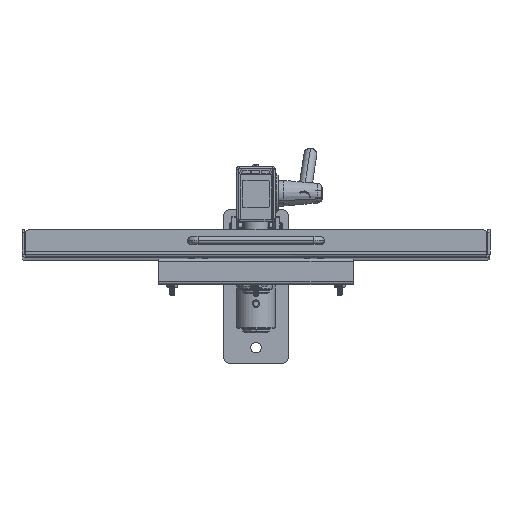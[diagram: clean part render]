
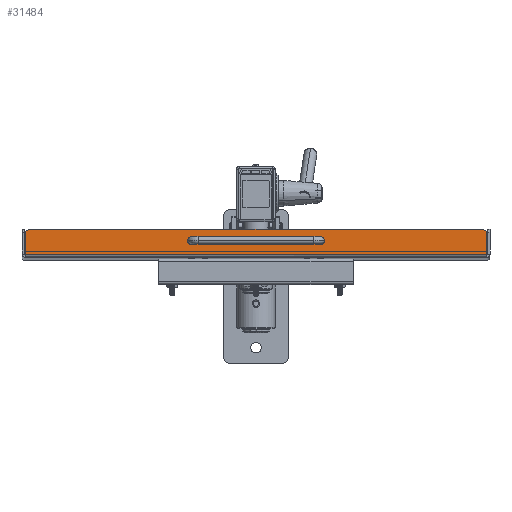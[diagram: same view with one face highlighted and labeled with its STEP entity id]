
A CAD part, top view. The second image highlights one B-rep face of the part: STEP entity #31484.
In plain terms, the highlighted planar face has unit normal (0, 0.008, 1) as drawn and (0, 0, 1) by its records, which use the part's own axes.
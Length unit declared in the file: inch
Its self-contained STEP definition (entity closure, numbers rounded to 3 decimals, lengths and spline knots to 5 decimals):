
#1084 = CARTESIAN_POINT ( 'NONE',  ( -8.75, 0.75, 6.09 ) ) ;
#4526 = ORIENTED_EDGE ( 'NONE', *, *, #39152, .T. ) ;
#4609 = LINE ( 'NONE', #59226, #77110 ) ;
#4932 = VECTOR ( 'NONE', #62182, 39.37008 ) ;
#5988 = CARTESIAN_POINT ( 'NONE',  ( -2.5, 0.55, 6.09 ) ) ;
#7973 = PLANE ( 'NONE',  #65457 ) ;
#8873 = FACE_BOUND ( 'NONE', #53046, .T. ) ;
#9784 = DIRECTION ( 'NONE',  ( -1., 0., 0. ) ) ;
#12020 = AXIS2_PLACEMENT_3D ( 'NONE', #14009, #49317, #21827 ) ;
#12332 = VERTEX_POINT ( 'NONE', #42505 ) ;
#14009 = CARTESIAN_POINT ( 'NONE',  ( 2.5, 0.55, 6.09 ) ) ;
#14571 = CIRCLE ( 'NONE', #74663, 0.1005 ) ;
#15106 = CIRCLE ( 'NONE', #67847, 0.25 ) ;
#16379 = ORIENTED_EDGE ( 'NONE', *, *, #25634, .F. ) ;
#16615 = VERTEX_POINT ( 'NONE', #54805 ) ;
#16687 = CARTESIAN_POINT ( 'NONE',  ( -2.5, 0.55, 6.09 ) ) ;
#19009 = CARTESIAN_POINT ( 'NONE',  ( 8.75, 0.75, 6.09 ) ) ;
#19648 = VERTEX_POINT ( 'NONE', #39224 ) ;
#20943 = CARTESIAN_POINT ( 'NONE',  ( -2.6005, 0.55, 6.09 ) ) ;
#21827 = DIRECTION ( 'NONE',  ( -1., 0., 0. ) ) ;
#22107 = LINE ( 'NONE', #49603, #41447 ) ;
#22258 = CARTESIAN_POINT ( 'NONE',  ( 8.96464, 0.87817, 6.09 ) ) ;
#22338 = VECTOR ( 'NONE', #74408, 39.37008 ) ;
#25634 = EDGE_CURVE ( 'NONE', #51933, #12332, #55311, .T. ) ;
#27761 = DIRECTION ( 'NONE',  ( 0., -1., 0. ) ) ;
#28842 = DIRECTION ( 'NONE',  ( -1., 0., 0. ) ) ;
#31484 = ADVANCED_FACE ( 'NONE', ( #8873, #37780, #71302 ), #7973, .T. ) ;
#31499 = ORIENTED_EDGE ( 'NONE', *, *, #78780, .T. ) ;
#31508 = EDGE_LOOP ( 'NONE', ( #66159, #39632 ) ) ;
#32228 = CARTESIAN_POINT ( 'NONE',  ( 2.6005, 0.55, 6.09 ) ) ;
#33537 = CARTESIAN_POINT ( 'NONE',  ( -8.75, 1., 6.09 ) ) ;
#33992 = DIRECTION ( 'NONE',  ( 0., 0., -1. ) ) ;
#34197 = CARTESIAN_POINT ( 'NONE',  ( 8.75, 1., 6.09 ) ) ;
#35104 = ORIENTED_EDGE ( 'NONE', *, *, #48881, .T. ) ;
#35786 = VERTEX_POINT ( 'NONE', #63767 ) ;
#37780 = FACE_OUTER_BOUND ( 'NONE', #85691, .T. ) ;
#37926 = AXIS2_PLACEMENT_3D ( 'NONE', #16687, #72669, #9784 ) ;
#38738 = ORIENTED_EDGE ( 'NONE', *, *, #90209, .F. ) ;
#39152 = EDGE_CURVE ( 'NONE', #50864, #16615, #22107, .T. ) ;
#39224 = CARTESIAN_POINT ( 'NONE',  ( -2.3995, 0.55, 6.09 ) ) ;
#39632 = ORIENTED_EDGE ( 'NONE', *, *, #73143, .T. ) ;
#41447 = VECTOR ( 'NONE', #76276, 39.37008 ) ;
#42505 = CARTESIAN_POINT ( 'NONE',  ( 8.75, 1., 6.09 ) ) ;
#42586 = CARTESIAN_POINT ( 'NONE',  ( 2.5, 0.55, 6.09 ) ) ;
#45170 = CIRCLE ( 'NONE', #70091, 0.1005 ) ;
#45444 = CIRCLE ( 'NONE', #73307, 0.25 ) ;
#46397 = LINE ( 'NONE', #82622, #22338 ) ;
#48881 = EDGE_CURVE ( 'NONE', #35786, #50864, #4609, .T. ) ;
#49317 = DIRECTION ( 'NONE',  ( 0., 0., -1. ) ) ;
#49603 = CARTESIAN_POINT ( 'NONE',  ( 8.75, 0.032, 6.09 ) ) ;
#49702 = DIRECTION ( 'NONE',  ( 0., 0., -1. ) ) ;
#50864 = VERTEX_POINT ( 'NONE', #75521 ) ;
#51001 = VERTEX_POINT ( 'NONE', #22258 ) ;
#51539 = CARTESIAN_POINT ( 'NONE',  ( 8.75, 0.75, 6.09 ) ) ;
#51933 = VERTEX_POINT ( 'NONE', #33537 ) ;
#52788 = DIRECTION ( 'NONE',  ( 0., -1., 0. ) ) ;
#53046 = EDGE_LOOP ( 'NONE', ( #81510, #31499 ) ) ;
#53417 = DIRECTION ( 'NONE',  ( 0., -1., 0. ) ) ;
#54805 = CARTESIAN_POINT ( 'NONE',  ( 8.96464, 0.032, 6.09 ) ) ;
#55311 = LINE ( 'NONE', #34197, #4932 ) ;
#59226 = CARTESIAN_POINT ( 'NONE',  ( -8.96464, 0.75, 6.09 ) ) ;
#60765 = DIRECTION ( 'NONE',  ( 0., 0., -1. ) ) ;
#61289 = EDGE_CURVE ( 'NONE', #70111, #80722, #45170, .T. ) ;
#61991 = DIRECTION ( 'NONE',  ( -1., 0., 0. ) ) ;
#62182 = DIRECTION ( 'NONE',  ( 1., 0., 0. ) ) ;
#62535 = VERTEX_POINT ( 'NONE', #20943 ) ;
#63750 = CARTESIAN_POINT ( 'NONE',  ( 2.3995, 0.55, 6.09 ) ) ;
#63767 = CARTESIAN_POINT ( 'NONE',  ( -8.96464, 0.87817, 6.09 ) ) ;
#65296 = DIRECTION ( 'NONE',  ( 0., -1., 0. ) ) ;
#65457 = AXIS2_PLACEMENT_3D ( 'NONE', #51539, #71753, #65296 ) ;
#66159 = ORIENTED_EDGE ( 'NONE', *, *, #61289, .T. ) ;
#66266 = CIRCLE ( 'NONE', #12020, 0.1005 ) ;
#67476 = EDGE_CURVE ( 'NONE', #19648, #62535, #14571, .T. ) ;
#67847 = AXIS2_PLACEMENT_3D ( 'NONE', #19009, #60765, #53417 ) ;
#70091 = AXIS2_PLACEMENT_3D ( 'NONE', #42586, #70585, #28842 ) ;
#70111 = VERTEX_POINT ( 'NONE', #32228 ) ;
#70197 = ORIENTED_EDGE ( 'NONE', *, *, #75748, .F. ) ;
#70585 = DIRECTION ( 'NONE',  ( 0., 0., -1. ) ) ;
#71302 = FACE_BOUND ( 'NONE', #31508, .T. ) ;
#71753 = DIRECTION ( 'NONE',  ( 0., 0., 1. ) ) ;
#72669 = DIRECTION ( 'NONE',  ( 0., 0., -1. ) ) ;
#73117 = CIRCLE ( 'NONE', #37926, 0.1005 ) ;
#73143 = EDGE_CURVE ( 'NONE', #80722, #70111, #66266, .T. ) ;
#73307 = AXIS2_PLACEMENT_3D ( 'NONE', #1084, #49702, #27761 ) ;
#74408 = DIRECTION ( 'NONE',  ( 0., -1., 0. ) ) ;
#74663 = AXIS2_PLACEMENT_3D ( 'NONE', #5988, #33992, #61991 ) ;
#75521 = CARTESIAN_POINT ( 'NONE',  ( -8.96464, 0.032, 6.09 ) ) ;
#75748 = EDGE_CURVE ( 'NONE', #12332, #51001, #15106, .T. ) ;
#76276 = DIRECTION ( 'NONE',  ( 1., 0., 0. ) ) ;
#77110 = VECTOR ( 'NONE', #52788, 39.37008 ) ;
#78780 = EDGE_CURVE ( 'NONE', #62535, #19648, #73117, .T. ) ;
#80722 = VERTEX_POINT ( 'NONE', #63750 ) ;
#81510 = ORIENTED_EDGE ( 'NONE', *, *, #67476, .T. ) ;
#82622 = CARTESIAN_POINT ( 'NONE',  ( 8.96464, 0.75, 6.09 ) ) ;
#85691 = EDGE_LOOP ( 'NONE', ( #38738, #70197, #16379, #86851, #35104, #4526 ) ) ;
#85835 = EDGE_CURVE ( 'NONE', #35786, #51933, #45444, .T. ) ;
#86851 = ORIENTED_EDGE ( 'NONE', *, *, #85835, .F. ) ;
#90209 = EDGE_CURVE ( 'NONE', #51001, #16615, #46397, .T. ) ;
